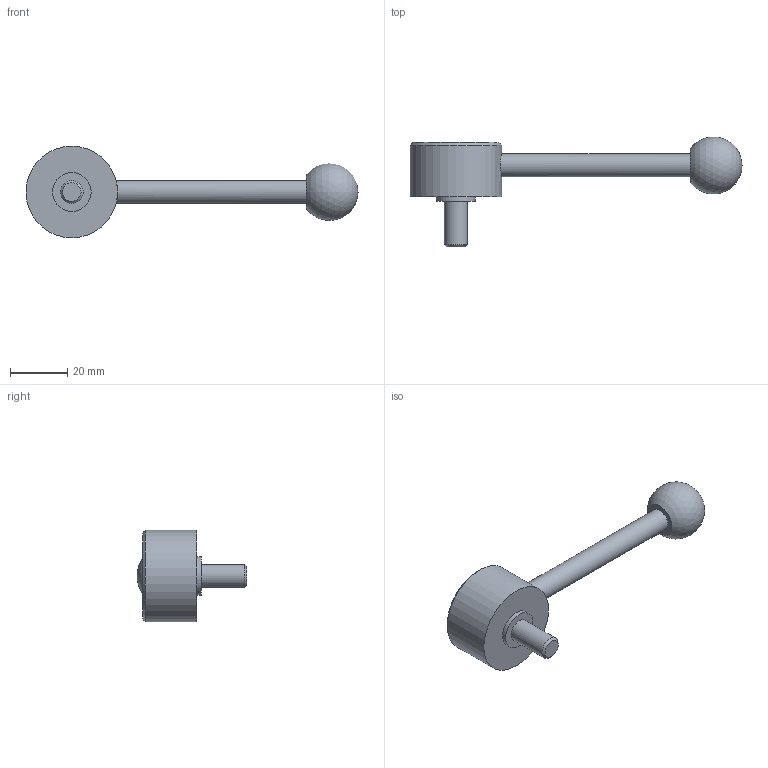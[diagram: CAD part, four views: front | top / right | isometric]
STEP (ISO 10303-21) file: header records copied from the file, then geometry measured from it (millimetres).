
FILE_DESCRIPTION( ( 'STEP AP203' ), '1' );
FILE_NAME( 'C:/Temp/Ganter_Step_05_03_2020/data/2_1/gn_125/gn_125_ms/gn_125_ms_d/Flat Adjustable Lever GN 125-32-M8-16-D.stp', '2020-03-05T11:00:44', ( 'License CC BY-ND 4.0' ), ( 'CADENAS' ), ' ', 'PARTsolutions', ' ' );
FILE_SCHEMA( ( 'CONFIG_CONTROL_DESIGN' ) );
Length unit declared in the file: millimetre
Products named in the file (1): _Flat Adjustable Lever GN 125-32-M8-16-D
Bounding box: 116 x 38.43 x 32 mm (x, y, z)
Volume: 23544 mm3; surface area: 6737.6 mm2
Topology: 1 solids, 1 shells, 14 faces, 23 edges, 15 vertices
Faces by surface type: plane 6, cylinder 5, cone 2, sphere 1
Full cylindrical faces by diameter (mm): 8 x2, 13.5 x1, 22 x1, 32 x1
Entity records: 384 total; most frequent: CARTESIAN_POINT 107, DIRECTION 54, AXIS2_PLACEMENT_3D 27, EDGE_LOOP 26, ORIENTED_EDGE 26, FACE_OUTER_BOUND 19, ADVANCED_FACE 14, VERTEX_POINT 14
